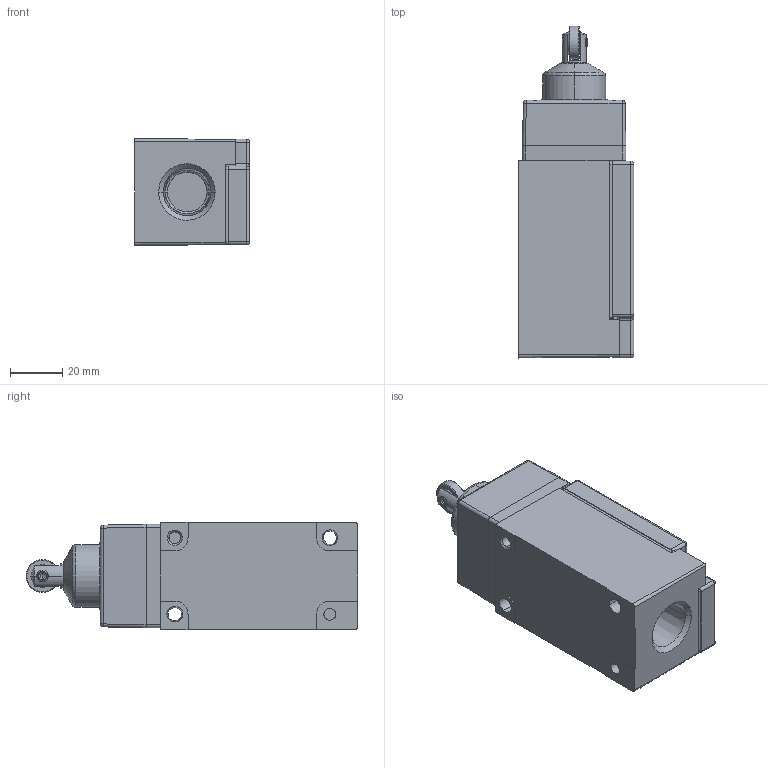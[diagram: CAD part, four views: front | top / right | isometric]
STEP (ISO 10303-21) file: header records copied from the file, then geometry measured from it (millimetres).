
FILE_DESCRIPTION((''),'2;1');
FILE_NAME('LSD3K','2012-12-06T',('E522935'),(''),'PRO/ENGINEER BY PARAMETRIC TECHNOLOGY CORPORATION, 2009460','PRO/ENGINEER BY PARAMETRIC TECHNOLOGY CORPORATION, 2009460','');
FILE_SCHEMA(('CONFIG_CONTROL_DESIGN'));
Length unit declared in the file: inch
Products named in the file (1): LSD3K
Bounding box: 44.32 x 127.46 x 41.15 mm (x, y, z)
Volume: 168238 mm3; surface area: 25347.4 mm2
Topology: 1 solids, 1 shells, 710 faces, 2285 edges, 1455 vertices
Faces by surface type: plane 417, cylinder 207, cone 48, sphere 22, torus 14, bspline 2
Entity records: 27216 total; most frequent: CARTESIAN_POINT 6713, ORIENTED_EDGE 4566, DIRECTION 4209, EDGE_CURVE 2283, VERTEX_POINT 1455, AXIS2_PLACEMENT_3D 1448, VECTOR 1313, LINE 1313
